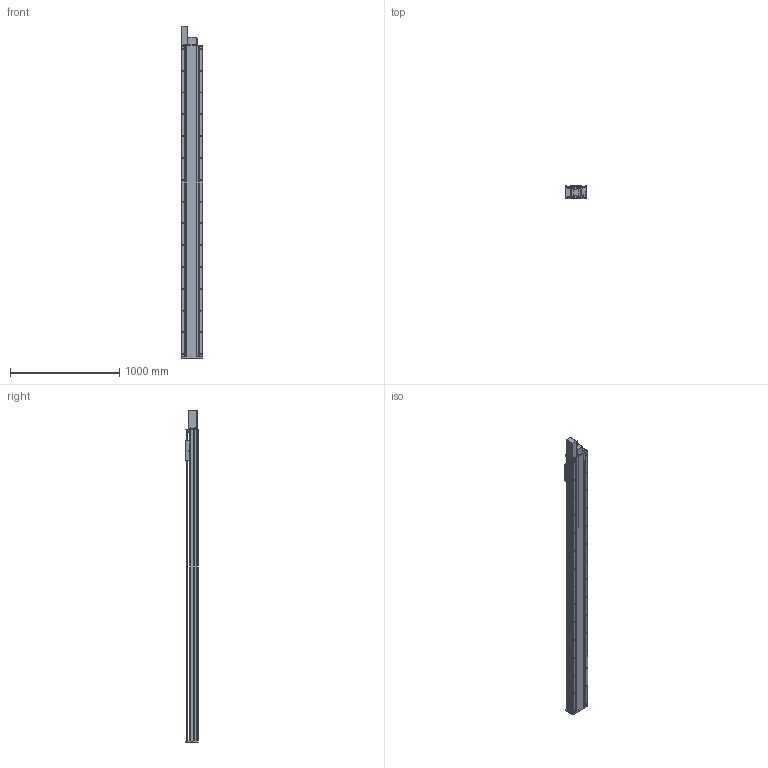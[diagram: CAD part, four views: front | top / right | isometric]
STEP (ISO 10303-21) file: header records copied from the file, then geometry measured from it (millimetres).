
FILE_DESCRIPTION(/* description */ (''),/* implementation_level */ '2;1');
FILE_NAME(/* name */ 'TKB200-FR-2600_asm1.stp',/* time_stamp */ '2016-05-18T11:14:40+08:00',/* author */ (''),/* organization */ (''),/* preprocessor_version */ 'ST-DEVELOPER v15',/* originating_system */ 'SIEMENS PLM Software NX 8.5',/* authorisation */ '');
FILE_SCHEMA (('AUTOMOTIVE_DESIGN { 1 0 10303 214 3 1 1 1 }'));
Length unit declared in the file: millimetre
Products named in the file (3): 200-2; 200-1; TKB200-FR-2600_asm1
Assembly tree (2 placements, depth 2):
  TKB200-FR-2600_asm1
    200-1
    200-2
Bounding box: 200 x 115 x 3045 mm (x, y, z)
Volume: 17085411.9 mm3; surface area: 5531542.5 mm2
Topology: 2 solids, 3 shells, 1131 faces, 3317 edges, 2141 vertices
Faces by surface type: cylinder 558, plane 487, cone 70, bspline 16
Full cylindrical faces by diameter (mm): 2.5 x2, 3.3 x16, 4.3 x4, 4.5 x8, 5 x2, 6.6 x34, 6.8 x8, 8 x6, 9 x38, 10 x4, 11 x22, 12 x16, 14 x30, 75 x1
Entity records: 40919 total; most frequent: CARTESIAN_POINT 12102, ORIENTED_EDGE 5874, DIRECTION 5799, EDGE_CURVE 2937, AXIS2_PLACEMENT_3D 2120, VERTEX_POINT 2024, EDGE_LOOP 1591, LINE 1559
